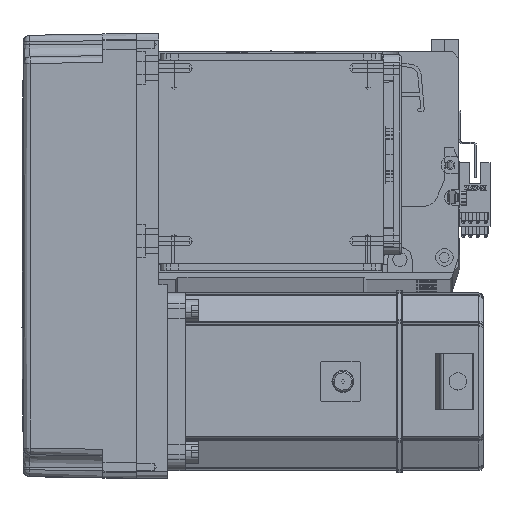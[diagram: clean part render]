
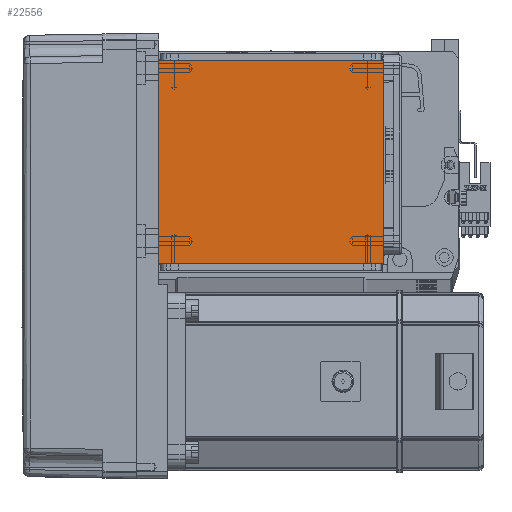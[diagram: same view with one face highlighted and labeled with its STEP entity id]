
A CAD part, top view. The second image highlights one B-rep face of the part: STEP entity #22556.
In plain terms, the highlighted planar face has unit normal (0, 0, 1).
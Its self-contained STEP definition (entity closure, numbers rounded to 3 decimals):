
#1778 = CARTESIAN_POINT ( 'NONE',  ( 0., 0., 115. ) ) ;
#3916 = CARTESIAN_POINT ( 'NONE',  ( 50.5, 20., 115. ) ) ;
#4480 = EDGE_CURVE ( 'NONE', #57105, #61907, #40518, .T. ) ;
#8149 = CARTESIAN_POINT ( 'NONE',  ( -50.5, 111.5, 115. ) ) ;
#11620 = EDGE_CURVE ( 'NONE', #49746, #22233, #31807, .T. ) ;
#11682 = CARTESIAN_POINT ( 'NONE',  ( 50.5, 111.5, 115. ) ) ;
#12286 = PLANE ( 'NONE',  #64826 ) ;
#13006 = DIRECTION ( 'NONE',  ( 0., -1., 0. ) ) ;
#14867 = CARTESIAN_POINT ( 'NONE',  ( 50.5, 122., 115. ) ) ;
#15224 = DIRECTION ( 'NONE',  ( -1., 0., 0. ) ) ;
#16302 = VECTOR ( 'NONE', #13006, 1000. ) ;
#17614 = DIRECTION ( 'NONE',  ( 1., 0., 0. ) ) ;
#21155 = DIRECTION ( 'NONE',  ( 1., 0., 0. ) ) ;
#22233 = VERTEX_POINT ( 'NONE', #11682 ) ;
#22556 = ADVANCED_FACE ( 'NONE', ( #52740 ), #12286, .T. ) ;
#23144 = ORIENTED_EDGE ( 'NONE', *, *, #67093, .T. ) ;
#24361 = CARTESIAN_POINT ( 'NONE',  ( -50.5, 20., 115. ) ) ;
#25263 = CARTESIAN_POINT ( 'NONE',  ( -70.004, 20., 115. ) ) ;
#28890 = ORIENTED_EDGE ( 'NONE', *, *, #49762, .T. ) ;
#29687 = LINE ( 'NONE', #44635, #16302 ) ;
#31634 = DIRECTION ( 'NONE',  ( 0., 1., 0. ) ) ;
#31807 = LINE ( 'NONE', #46247, #40152 ) ;
#32499 = VECTOR ( 'NONE', #31634, 1000. ) ;
#33749 = EDGE_LOOP ( 'NONE', ( #62693, #28890, #52724, #23144 ) ) ;
#39034 = DIRECTION ( 'NONE',  ( 0., 0., 1. ) ) ;
#40152 = VECTOR ( 'NONE', #21155, 1000. ) ;
#40518 = LINE ( 'NONE', #25263, #44619 ) ;
#44619 = VECTOR ( 'NONE', #15224, 1000. ) ;
#44635 = CARTESIAN_POINT ( 'NONE',  ( -50.5, 122., 115. ) ) ;
#46247 = CARTESIAN_POINT ( 'NONE',  ( -70.004, 111.5, 115. ) ) ;
#49746 = VERTEX_POINT ( 'NONE', #8149 ) ;
#49762 = EDGE_CURVE ( 'NONE', #49746, #61907, #29687, .T. ) ;
#52724 = ORIENTED_EDGE ( 'NONE', *, *, #4480, .F. ) ;
#52740 = FACE_OUTER_BOUND ( 'NONE', #33749, .T. ) ;
#57105 = VERTEX_POINT ( 'NONE', #3916 ) ;
#61907 = VERTEX_POINT ( 'NONE', #24361 ) ;
#62693 = ORIENTED_EDGE ( 'NONE', *, *, #11620, .F. ) ;
#64826 = AXIS2_PLACEMENT_3D ( 'NONE', #1778, #39034, #17614 ) ;
#67093 = EDGE_CURVE ( 'NONE', #57105, #22233, #67469, .T. ) ;
#67469 = LINE ( 'NONE', #14867, #32499 ) ;
